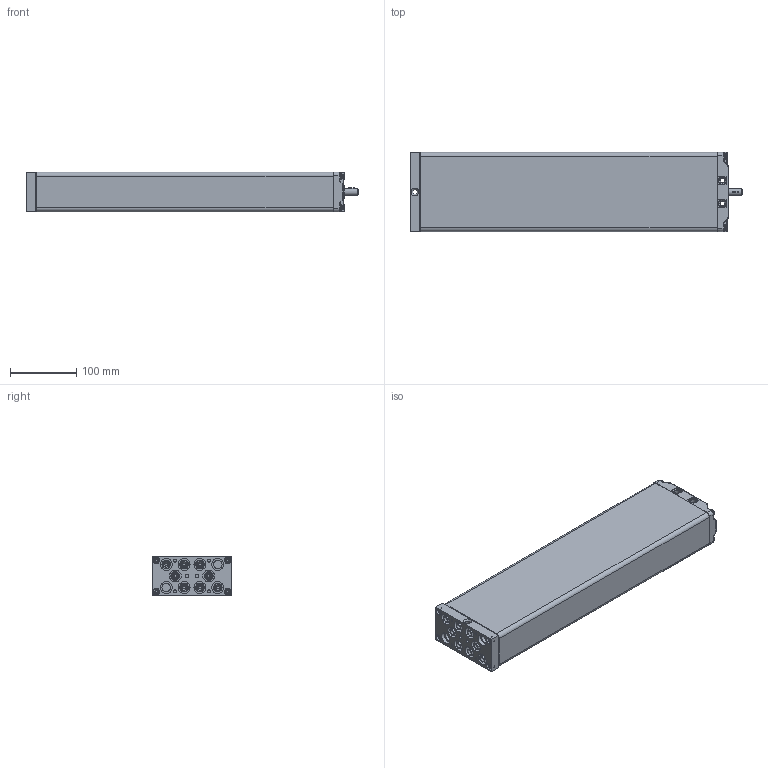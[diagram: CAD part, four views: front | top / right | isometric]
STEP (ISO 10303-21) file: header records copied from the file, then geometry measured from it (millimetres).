
FILE_DESCRIPTION(/* description */ ('Unknown'),/* implementation_level */ '2;1');
FILE_NAME(/* name */ '102.00193 Pumpe PB 8418 W',/* time_stamp */ '2016-11-24T16:41:25+01:00',/* author */ ('Unknown'),/* organization */ ('Unknown'),/* preprocessor_version */ 'ST-DEVELOPER v16.7',/* originating_system */ 'DEX',/* authorisation */ $);
FILE_SCHEMA (('AUTOMOTIVE_DESIGN {1 0 10303 214 3 1 1}'));
Products named in the file (15): 102.00193; 115.10023; 125.00031; 115.00007; 142.00021; 125.00021; 142.00013; 125.00143; 115.00140; 126.00006; 122.00040; 119.00043; 126.00036; 142.00057; 142.00017
Assembly tree (29 placements, depth 3):
  102.00193
    115.10023  x8
      125.00031
      115.00007
      142.00021
      125.00021
    142.00013  x8
    125.00143
    115.00140
      126.00006
      122.00040
    119.00043
    126.00036
    142.00057
    142.00017  x2
Bounding box: 502.5 x 120 x 60.3 mm (x, y, z)
Volume: 644697.4 mm3; surface area: 433995.7 mm2
Topology: 40 solids, 40 shells, 2092 faces, 4790 edges, 2801 vertices
Faces by surface type: plane 723, cylinder 481, bspline 377, cone 351, torus 102, sphere 58
Full cylindrical faces by diameter (mm): 3.5 x8, 4.1 x8, 4.134 x4, 4.2 x8, 4.917 x2, 5 x8, 5.8 x4, 6 x2, 6.8 x1, 6.917 x16, 8 x17, 9 x8, 9.8 x8, 10 x5, 10.4 x1, 10.5 x4, 12.5 x8, 13 x26, 13.9 x16, 14 x1, 18 x11, 19 x1
Entity records: 59893 total; most frequent: CARTESIAN_POINT 28814, ORIENTED_EDGE 5026, DIRECTION 4365, EDGE_CURVE 2513, AXIS2_PLACEMENT_3D 1695, VERTEX_POINT 1584, FACE_BOUND 1391, EDGE_LOOP 1390
